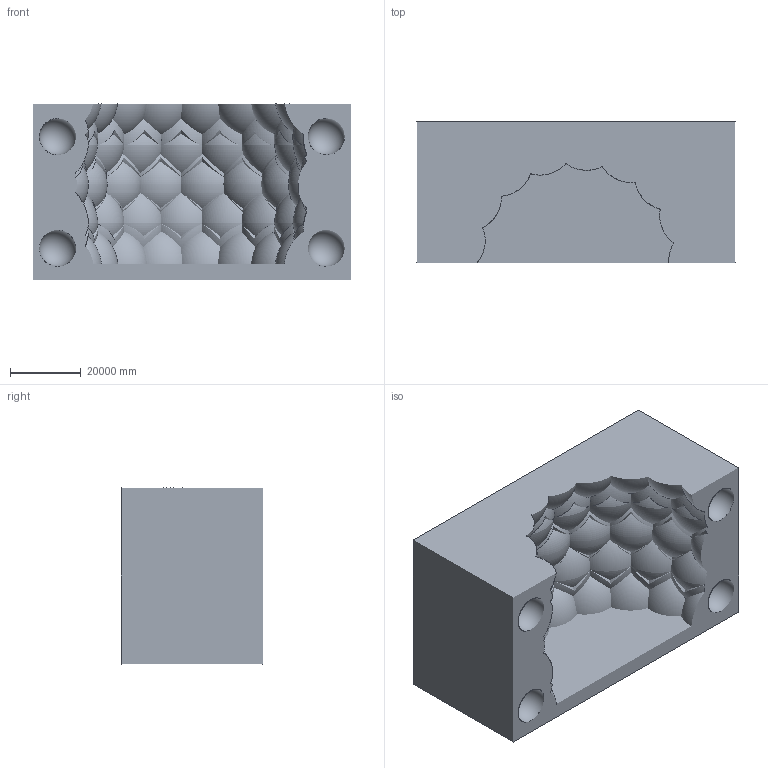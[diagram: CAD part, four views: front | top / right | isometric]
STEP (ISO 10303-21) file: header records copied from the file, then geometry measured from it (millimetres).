
FILE_DESCRIPTION(/* description */ ('STEP AP242 Edition 2','CAx-IF Rec.Pracs.---Representation and Presentation of Product Manufacturing Information (PMI)---4.0---2014-10-13','CAx-IF Rec.Pracs.---3D Tessellated Geometry---0.4---2014-09-14','2;1','CAx-IF Rec.Pracs.---User Defined Attributes---1.5---2016-08-15'),/* implementation_level */ '2;1');
FILE_NAME(/* name */ '69f004372cc81a32f1be301f',/* time_stamp */ '2026-04-28T00:51:51Z',/* author */ (''),/* organization */ (''),/* preprocessor_version */ 'ST-DEVELOPER v20',/* originating_system */ 'ONSHAPE BY PTC INC, 1.214',/* authorisation */ ' ');
FILE_SCHEMA (('AP242_MANAGED_MODEL_BASED_3D_ENGINEERING_MIM_LF { 1 0 10303 442 3 1 4 }'));
Products named in the file (89): id2; id5; id8; id11; id14; id17; id20; id23; id26; id29; id32; id35; id38; id41; id44; id47; id50; id53; id56; id59; id62; id65; id68; id71; id74; id77; id80; id83; id86; id89; id92; id95; id98; id101; id104; id107; id110; id113; id116; id119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
Bounding box: 90000 x 40000 x 50000 mm (x, y, z)
Surface area: 22856721638.1 mm2 (no closed solid volume)
Topology: 0 solids, 89 shells, 89 faces, 0 edges, 0 vertices
Faces by surface type: other 89
Entity records: 2046 total; most frequent: DIRECTION 178, SHAPE_REPRESENTATION_RELATIONSHIP 89, TESSELLATED_SHAPE_REPRESENTATION 89, COMPLEX_TRIANGULATED_FACE 89, COORDINATES_LIST 89, TESSELLATED_SHELL 89, SHAPE_DEFINITION_REPRESENTATION 89, SHAPE_REPRESENTATION 89
